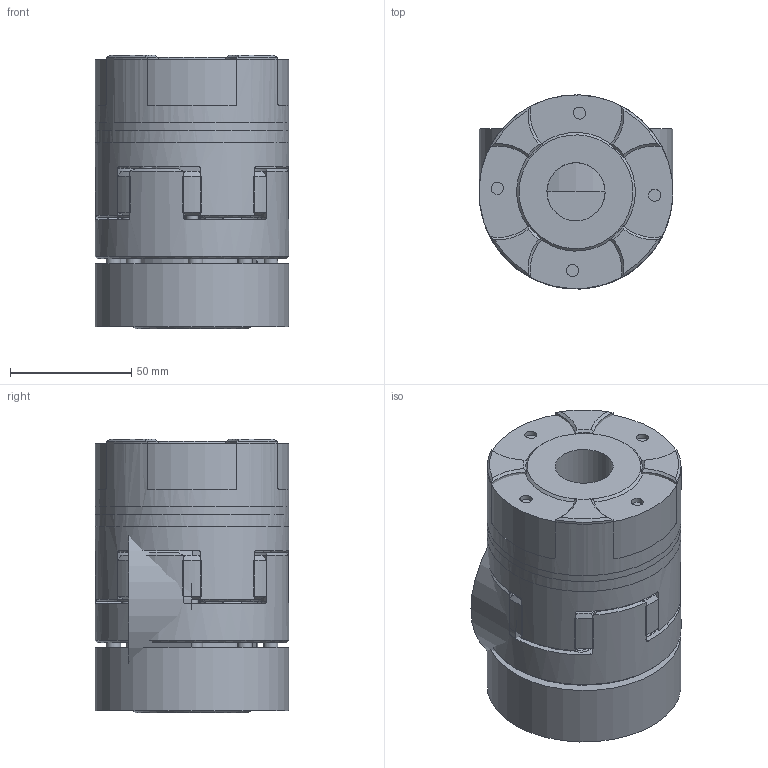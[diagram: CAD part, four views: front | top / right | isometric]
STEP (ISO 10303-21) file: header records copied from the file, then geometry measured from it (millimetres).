
FILE_DESCRIPTION( ( 'Unknown' ), '1' );
FILE_NAME( 'C:/Dokumente und Einstellungen/Sven/Desktop/homepage/cad - homepage/KBE3/KBE3 - 38.stp', 'Unknown', ( 'Unknown' ), ( 'Unknown' ), 'XStep 1.0', 'Unknown', ' ' );
FILE_SCHEMA( ( 'automotive_design' ) );
Length unit declared in the file: millimetre
Products named in the file (5): Assem1; Zahnkranz_38_Standard; KBE 3 - 38_Nabe; KBE3-38_Klemmring; ISO EN DIN 4762 M6x35
Bounding box: 80 x 80 x 113 mm (x, y, z)
Volume: 694224 mm3; surface area: 196643.4 mm2
Topology: 25 solids, 25 shells, 925 faces, 1941 edges, 1184 vertices
Faces by surface type: plane 294, cylinder 287, cone 279, torus 65
Full cylindrical faces by diameter (mm): 5 x69, 6 x34, 6.5 x24, 10 x17, 11 x24, 24 x3, 38 x4, 46 x3, 53 x3, 80 x6
Entity records: 6738 total; most frequent: CARTESIAN_POINT 1443, DIRECTION 1126, ORIENTED_EDGE 892, AXIS2_PLACEMENT_3D 533, EDGE_CURVE 446, EDGE_LOOP 354, VERTEX_POINT 310, CIRCLE 284
